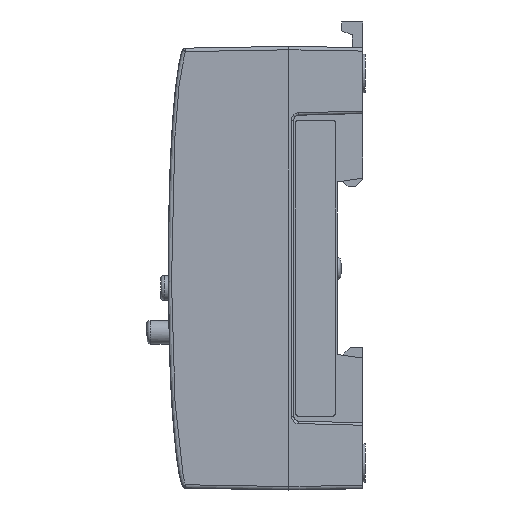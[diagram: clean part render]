
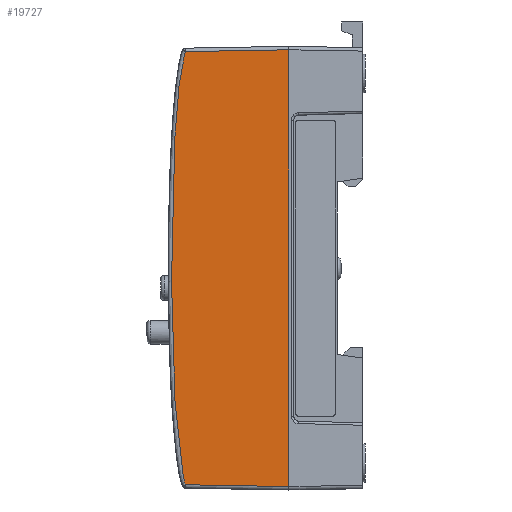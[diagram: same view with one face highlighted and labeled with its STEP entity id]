
A CAD part, left-side view. The second image highlights one B-rep face of the part: STEP entity #19727.
In plain terms, the highlighted planar face has unit normal (-1, 0.018, 0).
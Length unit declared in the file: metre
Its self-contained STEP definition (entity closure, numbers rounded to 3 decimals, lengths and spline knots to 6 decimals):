
#24=B_SPLINE_CURVE_WITH_KNOTS('',3,(#28680,#28681,#28682,#28683,#28684,
#28685,#28686,#28687,#28688,#28689,#28690,#28691,#28692,#28693,#28694,#28695,
#28696,#28697,#28698,#28699,#28700,#28701,#28702),.UNSPECIFIED.,.F.,.F.,
(4,1,1,1,1,1,1,1,1,1,1,1,1,1,1,1,1,1,1,1,4),(0.,0.001385,0.00277,
0.00554,0.00831,0.01108,0.01662,
0.02216,0.0277,0.03324,0.044319,
0.055399,0.060939,0.066479,0.072019,
0.077559,0.080329,0.083099,0.085869,
0.087254,0.088639),.UNSPECIFIED.);
#1427=ORIENTED_EDGE('',*,*,#6772,.T.);
#1428=ORIENTED_EDGE('',*,*,#6905,.T.);
#1429=ORIENTED_EDGE('',*,*,#6906,.T.);
#1430=ORIENTED_EDGE('',*,*,#6907,.T.);
#6772=EDGE_CURVE('',#9586,#9585,#11501,.F.);
#6905=EDGE_CURVE('',#9585,#9659,#11602,.F.);
#6906=EDGE_CURVE('',#9659,#9660,#24,.T.);
#6907=EDGE_CURVE('',#9660,#9586,#11603,.F.);
#9585=VERTEX_POINT('',#28195);
#9586=VERTEX_POINT('',#28197);
#9659=VERTEX_POINT('',#28679);
#9660=VERTEX_POINT('',#28703);
#11501=LINE('',#28196,#13917);
#11602=LINE('',#28678,#14018);
#11603=LINE('',#28704,#14019);
#13917=VECTOR('',#23415,1.);
#14018=VECTOR('',#23686,1.);
#14019=VECTOR('',#23687,1.);
#16275=EDGE_LOOP('',(#1427,#1428,#1429,#1430));
#17561=FACE_BOUND('',#16275,.T.);
#18805=PLANE('',#22125);
#19727=ADVANCED_FACE('',(#17561),#18805,.T.);
#22125=AXIS2_PLACEMENT_3D('',#28677,#23684,#23685);
#23415=DIRECTION('',(0.,0.,-1.));
#23684=DIRECTION('',(-1.,0.017,0.));
#23685=DIRECTION('',(0.017,1.,0.));
#23686=DIRECTION('',(-0.017,-1.,0.017));
#23687=DIRECTION('',(0.017,1.,0.017));
#28195=CARTESIAN_POINT('',(-0.05375,0.,0.0443));
#28196=CARTESIAN_POINT('',(-0.05375,0.,0.));
#28197=CARTESIAN_POINT('',(-0.05375,0.,-0.0443));
#28677=CARTESIAN_POINT('',(-0.05375,0.,0.));
#28678=CARTESIAN_POINT('',(-0.053379,0.021245,0.043929));
#28679=CARTESIAN_POINT('',(-0.053385,0.020909,0.043935));
#28680=CARTESIAN_POINT('',(-0.053385,0.020909,0.043935));
#28681=CARTESIAN_POINT('',(-0.053381,0.021124,0.043525));
#28682=CARTESIAN_POINT('',(-0.053377,0.021367,0.042631));
#28683=CARTESIAN_POINT('',(-0.05337,0.021759,0.040836));
#28684=CARTESIAN_POINT('',(-0.053364,0.022097,0.038558));
#28685=CARTESIAN_POINT('',(-0.053359,0.022417,0.035817));
#28686=CARTESIAN_POINT('',(-0.053353,0.02276,0.032155));
#28687=CARTESIAN_POINT('',(-0.053347,0.023085,0.02757));
#28688=CARTESIAN_POINT('',(-0.053342,0.02337,0.022059));
#28689=CARTESIAN_POINT('',(-0.053338,0.023575,0.016545));
#28690=CARTESIAN_POINT('',(-0.053335,0.02376,0.009193));
#28691=CARTESIAN_POINT('',(-0.053334,0.023847,0.000001));
#28692=CARTESIAN_POINT('',(-0.053335,0.02376,-0.009196));
#28693=CARTESIAN_POINT('',(-0.053339,0.023575,-0.016547));
#28694=CARTESIAN_POINT('',(-0.053342,0.02337,-0.022058));
#28695=CARTESIAN_POINT('',(-0.053347,0.023086,-0.027566));
#28696=CARTESIAN_POINT('',(-0.053353,0.022761,-0.032152));
#28697=CARTESIAN_POINT('',(-0.053359,0.022417,-0.035817));
#28698=CARTESIAN_POINT('',(-0.053364,0.022097,-0.038557));
#28699=CARTESIAN_POINT('',(-0.05337,0.02176,-0.040832));
#28700=CARTESIAN_POINT('',(-0.053377,0.021366,-0.042633));
#28701=CARTESIAN_POINT('',(-0.053381,0.021126,-0.043521));
#28702=CARTESIAN_POINT('',(-0.053385,0.020909,-0.043935));
#28703=CARTESIAN_POINT('',(-0.053385,0.020909,-0.043935));
#28704=CARTESIAN_POINT('',(-0.053737,0.000773,-0.044287));
